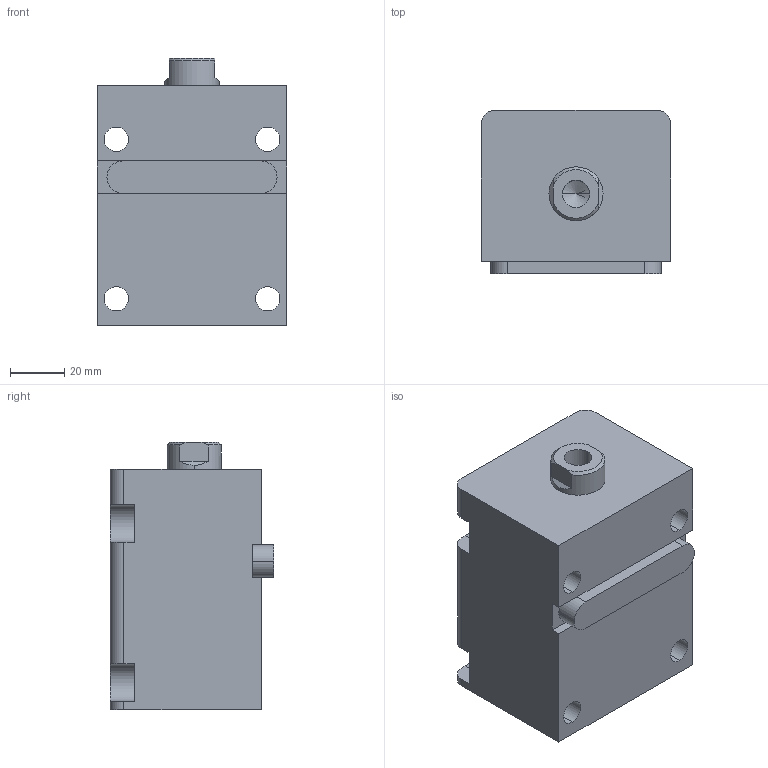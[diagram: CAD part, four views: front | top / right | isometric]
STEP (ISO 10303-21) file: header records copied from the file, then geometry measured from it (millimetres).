
FILE_DESCRIPTION (( 'STEP AP203' ), '1' );
FILE_NAME ('HTB-LA32-35N.STEP', '2019-10-09T06:27:21', ( '微软用户' ), ( '微软中国' ), 'SwSTEP 2.0', 'SolidWorks 2012', '' );
FILE_SCHEMA (( 'CONFIG_CONTROL_DESIGN' ));
Length unit declared in the file: millimetre
Products named in the file (4): HTB-LA32-35掛极; HTB-LA32-35N活塞杆; HTB-LA32-瑩; HTB-LA32-35N
Assembly tree (3 placements, depth 2):
  HTB-LA32-35N
    HTB-LA32-35掛极
    HTB-LA32-35N活塞杆
    HTB-LA32-瑩
Bounding box: 70 x 60.5 x 99 mm (x, y, z)
Volume: 315319 mm3; surface area: 55387.1 mm2
Topology: 3 solids, 3 shells, 88 faces, 217 edges, 141 vertices
Faces by surface type: plane 39, cylinder 35, cone 8, torus 6
Entity records: 3053 total; most frequent: DIRECTION 487, CARTESIAN_POINT 478, ORIENTED_EDGE 430, EDGE_CURVE 215, AXIS2_PLACEMENT_3D 186, VERTEX_POINT 141, VECTOR 115, LINE 115
